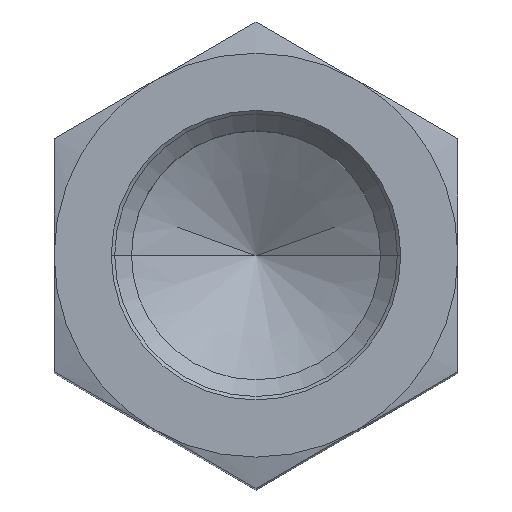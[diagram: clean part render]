
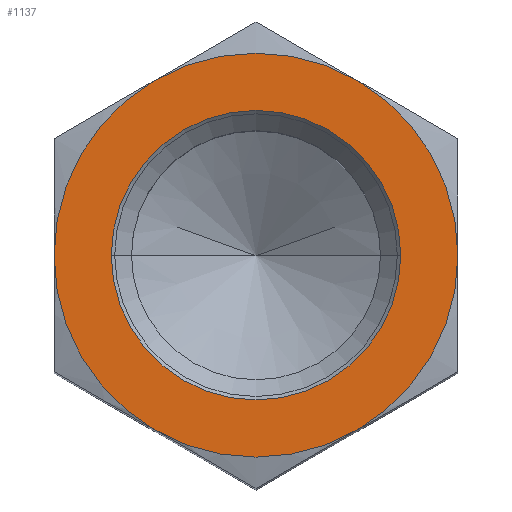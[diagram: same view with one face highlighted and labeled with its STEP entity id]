
A CAD part, top view. The second image highlights one B-rep face of the part: STEP entity #1137.
In plain terms, the highlighted planar face has unit normal (0, 0, 1).
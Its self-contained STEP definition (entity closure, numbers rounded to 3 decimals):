
#508=CARTESIAN_POINT('',(0.,0.,72.));
#509=DIRECTION('',(0.,0.,-1.));
#510=DIRECTION('',(1.,0.,0.));
#511=AXIS2_PLACEMENT_3D('',#508,#509,#510);
#516=CARTESIAN_POINT('',(0.,0.,72.));
#517=DIRECTION('',(0.,0.,-1.));
#518=DIRECTION('',(0.5,-0.866,0.));
#519=AXIS2_PLACEMENT_3D('',#516,#517,#518);
#524=CARTESIAN_POINT('',(0.,0.,72.));
#525=DIRECTION('',(0.,0.,-1.));
#526=DIRECTION('',(-0.5,-0.866,0.));
#527=AXIS2_PLACEMENT_3D('',#524,#525,#526);
#532=CARTESIAN_POINT('',(0.,0.,72.));
#533=DIRECTION('',(0.,0.,-1.));
#534=DIRECTION('',(-1.,0.,0.));
#535=AXIS2_PLACEMENT_3D('',#532,#533,#534);
#540=CARTESIAN_POINT('',(0.,0.,72.));
#541=DIRECTION('',(0.,0.,-1.));
#542=DIRECTION('',(-0.5,0.866,0.));
#543=AXIS2_PLACEMENT_3D('',#540,#541,#542);
#548=CARTESIAN_POINT('',(0.,0.,72.));
#549=DIRECTION('',(0.,0.,-1.));
#550=DIRECTION('',(0.5,0.866,0.));
#551=AXIS2_PLACEMENT_3D('',#548,#549,#550);
#556=CARTESIAN_POINT('',(0.,0.,72.));
#557=DIRECTION('',(0.,0.,1.));
#558=DIRECTION('',(-1.,0.,0.));
#559=AXIS2_PLACEMENT_3D('',#556,#557,#558);
#564=CARTESIAN_POINT('',(0.,0.,72.));
#565=DIRECTION('',(0.,0.,1.));
#566=DIRECTION('',(1.,0.,0.));
#567=AXIS2_PLACEMENT_3D('',#564,#565,#566);
#803=CARTESIAN_POINT('',(15.,0.,72.));
#804=CARTESIAN_POINT('',(7.5,-12.99,72.));
#805=VERTEX_POINT('',#803);
#806=VERTEX_POINT('',#804);
#807=CARTESIAN_POINT('',(-7.5,-12.99,72.));
#808=VERTEX_POINT('',#807);
#809=CARTESIAN_POINT('',(-15.,0.,72.));
#810=VERTEX_POINT('',#809);
#811=CARTESIAN_POINT('',(-7.5,12.99,72.));
#812=VERTEX_POINT('',#811);
#813=CARTESIAN_POINT('',(7.5,12.99,72.));
#814=VERTEX_POINT('',#813);
#843=CARTESIAN_POINT('',(-10.75,0.,72.));
#844=CARTESIAN_POINT('',(10.75,0.,72.));
#845=VERTEX_POINT('',#843);
#846=VERTEX_POINT('',#844);
#1115=CARTESIAN_POINT('',(0.,0.,72.));
#1116=DIRECTION('',(0.,0.,1.));
#1117=DIRECTION('',(1.,0.,0.));
#1118=AXIS2_PLACEMENT_3D('',#1115,#1116,#1117);
#1119=PLANE('',#1118);
#1121=ORIENTED_EDGE('',*,*,#1120,.T.);
#1123=ORIENTED_EDGE('',*,*,#1122,.T.);
#1125=ORIENTED_EDGE('',*,*,#1124,.T.);
#1126=ORIENTED_EDGE('',*,*,#1086,.T.);
#1127=ORIENTED_EDGE('',*,*,#1098,.T.);
#1128=ORIENTED_EDGE('',*,*,#1110,.T.);
#1129=EDGE_LOOP('',(#1121,#1123,#1125,#1126,#1127,#1128));
#1130=FACE_OUTER_BOUND('',#1129,.F.);
#1132=ORIENTED_EDGE('',*,*,#1131,.T.);
#1134=ORIENTED_EDGE('',*,*,#1133,.T.);
#1135=EDGE_LOOP('',(#1132,#1134));
#1136=FACE_BOUND('',#1135,.F.);
#512=CIRCLE('',#511,15.);
#520=CIRCLE('',#519,15.);
#528=CIRCLE('',#527,15.);
#536=CIRCLE('',#535,15.);
#544=CIRCLE('',#543,15.);
#552=CIRCLE('',#551,15.);
#560=CIRCLE('',#559,10.75);
#568=CIRCLE('',#567,10.75);
#1086=EDGE_CURVE('',#810,#812,#536,.T.);
#1098=EDGE_CURVE('',#812,#814,#544,.T.);
#1110=EDGE_CURVE('',#814,#805,#552,.T.);
#1120=EDGE_CURVE('',#805,#806,#512,.T.);
#1122=EDGE_CURVE('',#806,#808,#520,.T.);
#1124=EDGE_CURVE('',#808,#810,#528,.T.);
#1131=EDGE_CURVE('',#845,#846,#560,.T.);
#1133=EDGE_CURVE('',#846,#845,#568,.T.);
#1137=ADVANCED_FACE('',(#1130,#1136),#1119,.T.);
